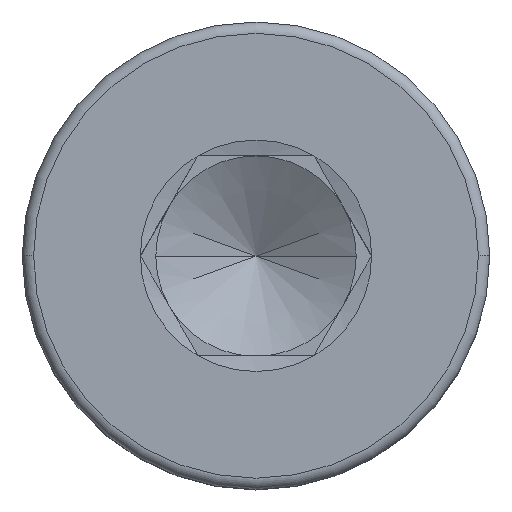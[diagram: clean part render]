
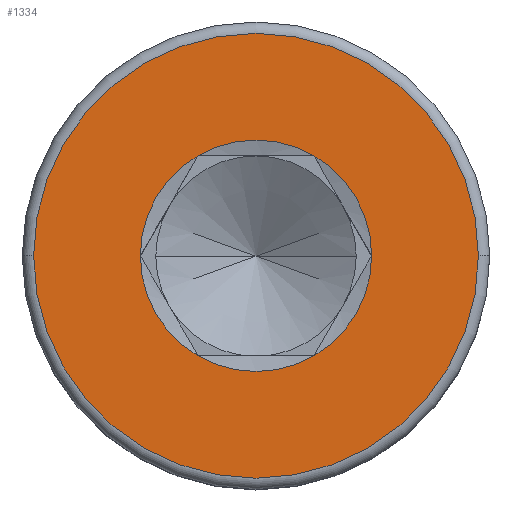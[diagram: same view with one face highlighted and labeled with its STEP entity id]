
A CAD part, top view. The second image highlights one B-rep face of the part: STEP entity #1334.
In plain terms, the highlighted planar face has unit normal (0, 0, 1).
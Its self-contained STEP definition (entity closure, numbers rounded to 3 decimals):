
#23 = AXIS2_PLACEMENT_3D ( 'NONE', #1224, #1079, #809 ) ;
#48 = VERTEX_POINT ( 'NONE', #1328 ) ;
#113 = DIRECTION ( 'NONE',  ( 0., 0., 1. ) ) ;
#138 = CARTESIAN_POINT ( 'NONE',  ( -0.866, 1.5, 4. ) ) ;
#197 = EDGE_CURVE ( 'NONE', #1252, #48, #1263, .T. ) ;
#234 = ORIENTED_EDGE ( 'NONE', *, *, #1108, .F. ) ;
#237 = DIRECTION ( 'NONE',  ( 0., 0., 1. ) ) ;
#251 = AXIS2_PLACEMENT_3D ( 'NONE', #1629, #113, #1639 ) ;
#282 = DIRECTION ( 'NONE',  ( 0., 0., 1. ) ) ;
#356 = EDGE_CURVE ( 'NONE', #686, #1679, #1117, .T. ) ;
#359 = CARTESIAN_POINT ( 'NONE',  ( 0.866, 1.5, 4. ) ) ;
#369 = ORIENTED_EDGE ( 'NONE', *, *, #1070, .T. ) ;
#372 = ORIENTED_EDGE ( 'NONE', *, *, #1447, .F. ) ;
#375 = CARTESIAN_POINT ( 'NONE',  ( 0.866, -1.5, 4. ) ) ;
#382 = CARTESIAN_POINT ( 'NONE',  ( 0., 0., 4. ) ) ;
#398 = DIRECTION ( 'NONE',  ( 0., 0., 1. ) ) ;
#399 = DIRECTION ( 'NONE',  ( 0., 0., 1. ) ) ;
#420 = FACE_BOUND ( 'NONE', #1403, .T. ) ;
#476 = EDGE_LOOP ( 'NONE', ( #369, #1624 ) ) ;
#566 = CARTESIAN_POINT ( 'NONE',  ( 1.732, 0., 4. ) ) ;
#576 = DIRECTION ( 'NONE',  ( 1., 0., 0. ) ) ;
#587 = ORIENTED_EDGE ( 'NONE', *, *, #1408, .F. ) ;
#622 = AXIS2_PLACEMENT_3D ( 'NONE', #1664, #1128, #1791 ) ;
#686 = VERTEX_POINT ( 'NONE', #1511 ) ;
#696 = CARTESIAN_POINT ( 'NONE',  ( 0., 0., 4. ) ) ;
#772 = CIRCLE ( 'NONE', #804, 1.732 ) ;
#792 = DIRECTION ( 'NONE',  ( 1., 0., 0. ) ) ;
#804 = AXIS2_PLACEMENT_3D ( 'NONE', #1508, #1372, #988 ) ;
#809 = DIRECTION ( 'NONE',  ( 1., 0., 0. ) ) ;
#839 = CARTESIAN_POINT ( 'NONE',  ( 0., 0., 4. ) ) ;
#921 = AXIS2_PLACEMENT_3D ( 'NONE', #839, #1394, #1102 ) ;
#955 = DIRECTION ( 'NONE',  ( 1., 0., 0. ) ) ;
#956 = DIRECTION ( 'NONE',  ( 1., 0., 0. ) ) ;
#968 = CARTESIAN_POINT ( 'NONE',  ( 0., 0., 4. ) ) ;
#988 = DIRECTION ( 'NONE',  ( 1., 0., 0. ) ) ;
#1003 = CIRCLE ( 'NONE', #251, 1.732 ) ;
#1016 = ORIENTED_EDGE ( 'NONE', *, *, #1311, .F. ) ;
#1053 = VERTEX_POINT ( 'NONE', #359 ) ;
#1070 = EDGE_CURVE ( 'NONE', #48, #1252, #1785, .T. ) ;
#1079 = DIRECTION ( 'NONE',  ( 0., 0., 1. ) ) ;
#1087 = AXIS2_PLACEMENT_3D ( 'NONE', #1652, #399, #956 ) ;
#1102 = DIRECTION ( 'NONE',  ( 1., 0., 0. ) ) ;
#1108 = EDGE_CURVE ( 'NONE', #1340, #1053, #1557, .T. ) ;
#1117 = CIRCLE ( 'NONE', #1087, 1.732 ) ;
#1119 = EDGE_CURVE ( 'NONE', #1371, #1275, #772, .T. ) ;
#1121 = AXIS2_PLACEMENT_3D ( 'NONE', #696, #398, #955 ) ;
#1128 = DIRECTION ( 'NONE',  ( 0., 0., 1. ) ) ;
#1182 = CIRCLE ( 'NONE', #23, 1.732 ) ;
#1224 = CARTESIAN_POINT ( 'NONE',  ( 0., 0., 4. ) ) ;
#1241 = AXIS2_PLACEMENT_3D ( 'NONE', #968, #282, #576 ) ;
#1252 = VERTEX_POINT ( 'NONE', #1495 ) ;
#1263 = CIRCLE ( 'NONE', #622, 3.33 ) ;
#1275 = VERTEX_POINT ( 'NONE', #1506 ) ;
#1311 = EDGE_CURVE ( 'NONE', #1053, #1371, #1359, .T. ) ;
#1328 = CARTESIAN_POINT ( 'NONE',  ( 3.33, 0., 4. ) ) ;
#1334 = ADVANCED_FACE ( 'NONE', ( #1665, #420 ), #1521, .T. ) ;
#1340 = VERTEX_POINT ( 'NONE', #566 ) ;
#1359 = CIRCLE ( 'NONE', #1241, 1.732 ) ;
#1371 = VERTEX_POINT ( 'NONE', #138 ) ;
#1372 = DIRECTION ( 'NONE',  ( 0., 0., 1. ) ) ;
#1394 = DIRECTION ( 'NONE',  ( 0., 0., 1. ) ) ;
#1403 = EDGE_LOOP ( 'NONE', ( #234, #372, #1719, #587, #1757, #1016 ) ) ;
#1408 = EDGE_CURVE ( 'NONE', #1275, #686, #1182, .T. ) ;
#1441 = AXIS2_PLACEMENT_3D ( 'NONE', #382, #237, #792 ) ;
#1447 = EDGE_CURVE ( 'NONE', #1679, #1340, #1003, .T. ) ;
#1495 = CARTESIAN_POINT ( 'NONE',  ( -3.33, 0., 4. ) ) ;
#1506 = CARTESIAN_POINT ( 'NONE',  ( -1.732, 0., 4. ) ) ;
#1508 = CARTESIAN_POINT ( 'NONE',  ( 0., 0., 4. ) ) ;
#1511 = CARTESIAN_POINT ( 'NONE',  ( -0.866, -1.5, 4. ) ) ;
#1521 = PLANE ( 'NONE',  #921 ) ;
#1557 = CIRCLE ( 'NONE', #1121, 1.732 ) ;
#1624 = ORIENTED_EDGE ( 'NONE', *, *, #197, .T. ) ;
#1629 = CARTESIAN_POINT ( 'NONE',  ( 0., 0., 4. ) ) ;
#1639 = DIRECTION ( 'NONE',  ( 1., 0., 0. ) ) ;
#1652 = CARTESIAN_POINT ( 'NONE',  ( 0., 0., 4. ) ) ;
#1664 = CARTESIAN_POINT ( 'NONE',  ( 0., 0., 4. ) ) ;
#1665 = FACE_OUTER_BOUND ( 'NONE', #476, .T. ) ;
#1679 = VERTEX_POINT ( 'NONE', #375 ) ;
#1719 = ORIENTED_EDGE ( 'NONE', *, *, #356, .F. ) ;
#1757 = ORIENTED_EDGE ( 'NONE', *, *, #1119, .F. ) ;
#1785 = CIRCLE ( 'NONE', #1441, 3.33 ) ;
#1791 = DIRECTION ( 'NONE',  ( 1., 0., 0. ) ) ;
